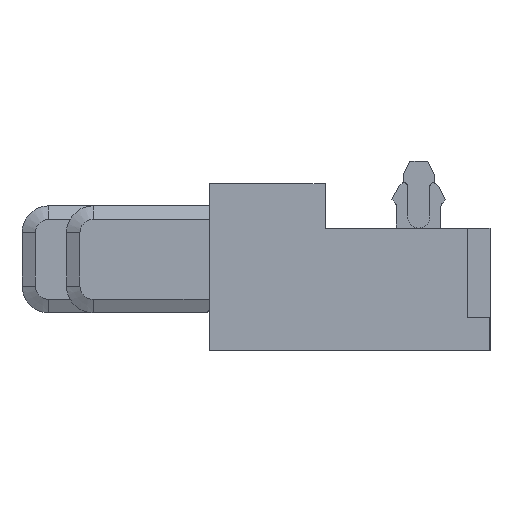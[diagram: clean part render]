
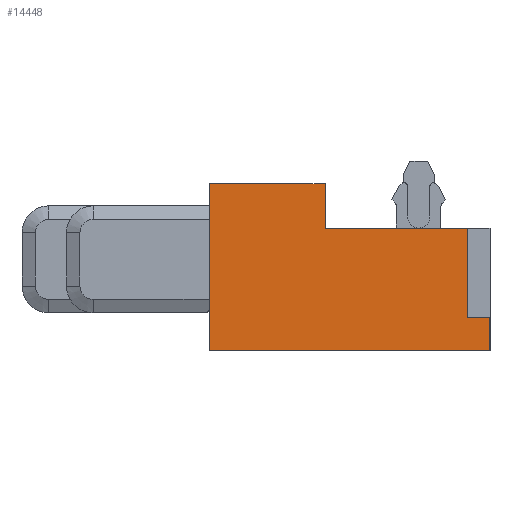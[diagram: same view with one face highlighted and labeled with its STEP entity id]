
A CAD part, left-side view. The second image highlights one B-rep face of the part: STEP entity #14448.
In plain terms, the highlighted planar face has unit normal (-1, 0, 0).
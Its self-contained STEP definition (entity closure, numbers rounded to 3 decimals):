
#5=DIRECTION('',(0.,1.,0.));
#6=VECTOR('',#5,0.5);
#7=CARTESIAN_POINT('',(-9.65,-3.15,-1.125));
#8=LINE('',#7,#6);
#13=DIRECTION('',(0.,0.,1.));
#14=VECTOR('',#13,2.);
#15=CARTESIAN_POINT('',(-9.65,-2.65,-1.125));
#16=LINE('',#15,#14);
#62=DIRECTION('',(0.,1.,0.));
#63=VECTOR('',#62,3.2);
#64=CARTESIAN_POINT('',(-9.65,-2.65,0.875));
#65=LINE('',#64,#63);
#925=DIRECTION('',(0.,0.,1.));
#926=VECTOR('',#925,1.);
#927=CARTESIAN_POINT('',(-9.65,0.55,0.875));
#928=LINE('',#927,#926);
#1165=DIRECTION('',(0.,0.,-1.));
#1166=VECTOR('',#1165,3.75);
#1167=CARTESIAN_POINT('',(-9.65,3.15,1.875));
#1168=LINE('',#1167,#1166);
#3027=DIRECTION('',(0.,0.,1.));
#3028=VECTOR('',#3027,0.75);
#3029=CARTESIAN_POINT('',(-9.65,-3.15,-1.875));
#3030=LINE('',#3029,#3028);
#3051=DIRECTION('',(0.,-1.,0.));
#3052=VECTOR('',#3051,6.3);
#3053=CARTESIAN_POINT('',(-9.65,3.15,-1.875));
#3054=LINE('',#3053,#3052);
#10997=DIRECTION('',(0.,1.,0.));
#10998=VECTOR('',#10997,2.6);
#10999=CARTESIAN_POINT('',(-9.65,0.55,1.875));
#11000=LINE('',#10999,#10998);
#11053=CARTESIAN_POINT('',(-9.65,-3.15,-1.125));
#11054=CARTESIAN_POINT('',(-9.65,-2.65,-1.125));
#11055=VERTEX_POINT('',#11053);
#11056=VERTEX_POINT('',#11054);
#11057=CARTESIAN_POINT('',(-9.65,-3.15,-1.875));
#11058=VERTEX_POINT('',#11057);
#11059=CARTESIAN_POINT('',(-9.65,3.15,-1.875));
#11060=VERTEX_POINT('',#11059);
#11061=CARTESIAN_POINT('',(-9.65,3.15,1.875));
#11062=VERTEX_POINT('',#11061);
#11063=CARTESIAN_POINT('',(-9.65,0.55,1.875));
#11064=VERTEX_POINT('',#11063);
#11065=CARTESIAN_POINT('',(-9.65,0.55,0.875));
#11066=VERTEX_POINT('',#11065);
#11067=CARTESIAN_POINT('',(-9.65,-2.65,0.875));
#11068=VERTEX_POINT('',#11067);
#14425=CARTESIAN_POINT('',(-9.65,0.,0.));
#14426=DIRECTION('',(1.,0.,0.));
#14427=DIRECTION('',(0.,-1.,0.));
#14428=AXIS2_PLACEMENT_3D('',#14425,#14426,#14427);
#14429=PLANE('',#14428);
#14431=ORIENTED_EDGE('',*,*,#14430,.F.);
#14433=ORIENTED_EDGE('',*,*,#14432,.F.);
#14435=ORIENTED_EDGE('',*,*,#14434,.F.);
#14437=ORIENTED_EDGE('',*,*,#14436,.F.);
#14439=ORIENTED_EDGE('',*,*,#14438,.F.);
#14441=ORIENTED_EDGE('',*,*,#14440,.F.);
#14443=ORIENTED_EDGE('',*,*,#14442,.F.);
#14445=ORIENTED_EDGE('',*,*,#14444,.F.);
#14446=EDGE_LOOP('',(#14431,#14433,#14435,#14437,#14439,#14441,#14443,#14445));
#14447=FACE_OUTER_BOUND('',#14446,.F.);
#14430=EDGE_CURVE('',#11055,#11056,#8,.T.);
#14432=EDGE_CURVE('',#11058,#11055,#3030,.T.);
#14434=EDGE_CURVE('',#11060,#11058,#3054,.T.);
#14436=EDGE_CURVE('',#11062,#11060,#1168,.T.);
#14438=EDGE_CURVE('',#11064,#11062,#11000,.T.);
#14440=EDGE_CURVE('',#11066,#11064,#928,.T.);
#14442=EDGE_CURVE('',#11068,#11066,#65,.T.);
#14444=EDGE_CURVE('',#11056,#11068,#16,.T.);
#14448=ADVANCED_FACE('',(#14447),#14429,.F.);
